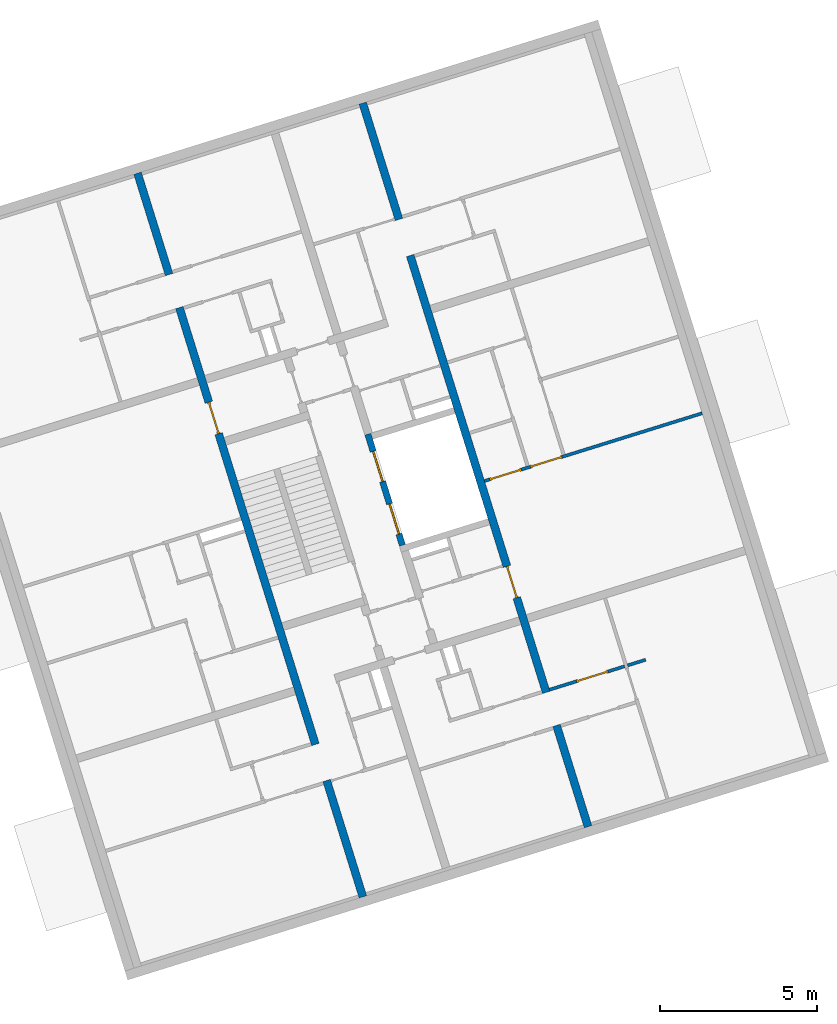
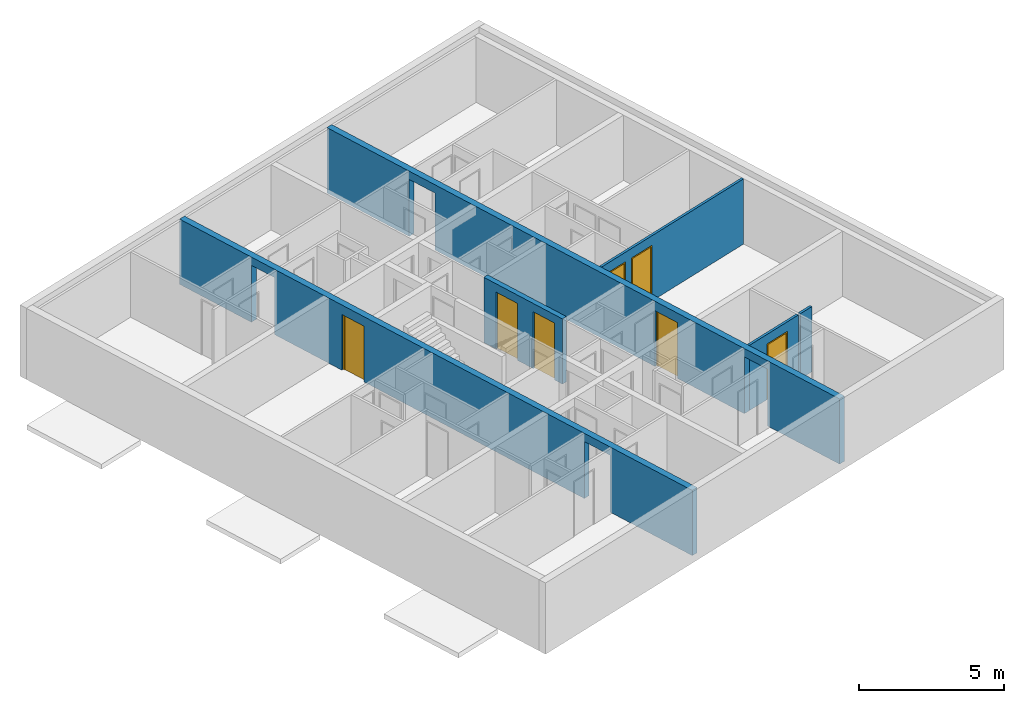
# One storey, part 8 of 9: 7 doors, 5 walls, 12 openings.
"""IFC4 building model written with IfcOpenShell, lengths in metres."""

from ifc_helpers import new_model, entity, si_unit, converted_unit, direction, frame, origin, place, context, subcontext, project, spatial, indexed_curve, outline, extrude, polygons, source, transform, mapped, material, constituent, constituent_set, type_object, type_shapes, element, fill, save


model = new_model("IFC4")

# Units and contexts
model_context = context("Model", 3, precision=1e-05, world=origin(), true_north=direction((6.12323399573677e-17, 1.0)))
body_context = subcontext(model_context, "Body", "Model", "MODEL_VIEW")
ifc_project = project(units=[si_unit("LENGTHUNIT", "METRE"), si_unit("AREAUNIT", "SQUARE_METRE"), converted_unit("PLANEANGLEUNIT", "DEGREE", entity("IfcPlaneAngleMeasure", 0.0174532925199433), si_unit("PLANEANGLEUNIT", "RADIAN"), dimensions=[0, 0, 0, 0, 0, 0, 0]), si_unit("VOLUMEUNIT", "CUBIC_METRE")], contexts=[model_context])

# Site, building, storey
site_placement = place(None, frame((13.1347999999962, 11.9886000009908, 0.0), z_axis=(0.0, 0.0, 1.0), x_axis=(0.954770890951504, 0.297342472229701, 0.0)))
site = spatial("IfcSite", under=ifc_project, at=site_placement, Name="Schiehaven", CompositionType="ELEMENT")
building_placement = place(site_placement, origin())
building = spatial("IfcBuilding", under=site, at=building_placement, Name="VORM huis", CompositionType="ELEMENT")
storey_placement = place(building_placement, frame((0.0, 0.0, 15.9)))
storey = spatial("IfcBuildingStorey", under=building, at=storey_placement, Name="05 vijfde verdieping", CompositionType="ELEMENT", Elevation=15.9)

# Wall, openings, door
ifc_material_1 = material(Name="beton_gewapend_ihw", Category="Miscellaneous")
wall_type_1 = type_object("IfcWallType", Name="Basic Wall:28_WA_skelet_wand 250mm_gen", PredefinedType="STANDARD")
wall_1_placement = place(storey_placement, frame((72.5, 5.0, 0.0), z_axis=(0.0, 0.0, 1.0), x_axis=(0.0, 1.0, 0.0)))
wall_1 = element("IfcWall", 1, at=wall_1_placement, inside=storey, type_object=wall_type_1, material=ifc_material_1, Name="Constructieve wand", ObjectType="Wand", PredefinedType="NOTDEFINED", context=body_context, shape_type="Tessellation", body=[
    polygons([(8.67499999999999, -0.125000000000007, 2.34999999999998), (8.67499999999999, -0.125000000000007, -2.16573425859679e-15), (19.0250000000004, -0.125000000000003, -2.16573425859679e-15), (19.0250000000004, -0.125000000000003, 2.4), (20.2250000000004, -0.125000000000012, 2.4), (20.2250000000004, -0.125000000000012, -2.16573425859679e-15), (24.1, -0.125000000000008, -2.16573425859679e-15), (24.1, -0.125000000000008, 2.75), (0.0, -0.125000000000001, 2.75), (1.08286712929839e-15, -0.125000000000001, -2.16573425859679e-15), (3.37500000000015, -0.125000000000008, -2.16573425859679e-15), (3.37500000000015, -0.125000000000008, 2.4), (4.47500000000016, -0.124999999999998, 2.4), (4.47500000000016, -0.124999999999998, -2.16573425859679e-15), (7.62499999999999, -0.125000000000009, -2.16573425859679e-15), (7.62499999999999, -0.125000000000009, 2.34999999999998), (19.0250000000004, 0.124999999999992, -2.16573425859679e-15), (8.675, 0.124999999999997, -2.16573425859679e-15), (8.675, 0.124999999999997, 2.34999999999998), (7.62499999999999, 0.125000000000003, 2.34999999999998), (7.62499999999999, 0.125000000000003, -2.16573425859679e-15), (7.025, 0.124999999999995, -2.16573425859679e-15), (6.775, 0.12499999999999, -2.16573425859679e-15), (4.47500000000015, 0.124999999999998, -2.16573425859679e-15), (4.47500000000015, 0.124999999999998, 2.4), (3.37500000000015, 0.124999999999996, 2.4), (3.37500000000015, 0.124999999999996, -2.16573425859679e-15), (2.16573425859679e-15, 0.124999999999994, -2.16573425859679e-15), (2.16573425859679e-15, 0.124999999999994, 2.75), (6.775, 0.12499999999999, 2.75), (7.025, 0.124999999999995, 2.75), (24.1, 0.124999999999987, 2.75), (24.1, 0.124999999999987, -2.16573425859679e-15), (20.2250000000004, 0.124999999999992, -2.16573425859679e-15), (20.2250000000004, 0.124999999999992, 2.4), (19.0250000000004, 0.124999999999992, 2.4)], [[[1, 2, 3, 4, 5, 6, 7, 8, 9, 10, 11, 12, 13, 14, 15, 16]], [[17, 18, 19, 20, 21, 22, 23, 24, 25, 26, 27, 28, 29, 30, 31, 32, 33, 34, 35, 36]], [[10, 28, 27, 11]], [[8, 7, 33, 32]], [[9, 8, 32, 31, 30, 29]], [[10, 9, 29, 28]], [[12, 26, 25, 13]], [[26, 12, 11, 27]], [[13, 25, 24, 14]], [[4, 36, 35, 5]], [[36, 4, 3, 17]], [[5, 35, 34, 6]], [[21, 20, 16, 15]], [[19, 18, 2, 1]], [[20, 19, 1, 16]], [[15, 14, 24, 23, 22, 21]], [[3, 2, 18, 17]], [[33, 7, 6, 34]]], closed=True),
])
opening_1_placement = place(wall_1_placement, origin())
element("IfcOpeningElement", 2, at=opening_1_placement, cuts=wall_1, Name="Constructieve wand", PredefinedType="OPENING", context=body_context, shape_type="SweptSolid", body=[
    extrude(outline(indexed_curve([(-1.2, -0.550000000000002), (1.2, -0.550000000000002), (1.2, 0.550000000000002), (-1.2, 0.550000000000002), (-1.2, -0.550000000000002)], self_intersect=False)), frame((3.92500000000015, -0.124999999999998, 1.2), z_axis=(0.0, 1.0, 0.0), x_axis=(0.0, 0.0, -1.0)), (0.0, 0.0, 1.0), 0.249999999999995),
])
opening_2_placement = place(wall_1_placement, origin())
element("IfcOpeningElement", 3, at=opening_2_placement, cuts=wall_1, Name="Constructieve wand", PredefinedType="OPENING", context=body_context, shape_type="SweptSolid", body=[
    extrude(outline(indexed_curve([(-1.2, -0.599999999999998), (1.2, -0.599999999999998), (1.2, 0.599999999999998), (-1.2, 0.599999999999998), (-1.2, -0.599999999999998)], self_intersect=False)), frame((19.6250000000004, -0.125000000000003, 1.2), z_axis=(0.0, 1.0, 0.0), x_axis=(0.0, 0.0, -1.0)), (0.0, 0.0, 1.0), 0.249999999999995),
])
opening_3_placement = place(wall_1_placement, frame((7.62499999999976, -0.124999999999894, 0.0)))
opening_3 = element("IfcOpeningElement", 4, at=opening_3_placement, cuts=wall_1, Name="Binnendeur", PredefinedType="OPENING", context=body_context, shape_type="SweptSolid", body=[
    extrude(outline(indexed_curve([(2.34999999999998, 1.08286712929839e-15), (2.34999999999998, 1.05), (0.0, 1.05), (0.0, 1.08286712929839e-15), (2.34999999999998, 1.08286712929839e-15)], self_intersect=False)), frame((0.0, 0.0, 0.0), z_axis=(0.0, 1.0, 0.0), x_axis=(0.0, 0.0, 1.0)), (0.0, 0.0, 1.0), 0.25),
])
ifc_material_2 = material(Name="PD_a_binnenwandopeningen", Category="Miscellaneous")
ifc_constituent_1 = constituent(ifc_material_2, Name="PD_a_binnenwandopeningen", Category="Miscellaneous")
ifc_material_3 = material(Name="metaal_aluminium_ntb", Category="Miscellaneous")
ifc_constituent_2 = constituent(ifc_material_3, Name="metaal_aluminium_ntb", Category="Miscellaneous")
ifc_constituent_set_1 = constituent_set(constituents=[ifc_constituent_1, ifc_constituent_2])
ifc_constituent_3 = constituent(ifc_material_2, Name="PD_a_binnenwandopeningen", Category="Miscellaneous")
ifc_constituent_4 = constituent(ifc_material_3, Name="Panel", Category="Miscellaneous")
ifc_constituent_set_2 = constituent_set(constituents=[ifc_constituent_3, ifc_constituent_4])
door_type_1 = type_object("IfcDoorType", Name="32_DO_binnendeur enkel:binnendeur", OperationType="REVOLVING", PredefinedType="DOOR", material=ifc_constituent_set_2)
shared_shape_1 = source(origin(), body_context, "Body", "SweptSolid", [
    extrude(outline(indexed_curve([(0.475, -1.16249999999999), (0.525000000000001, -1.16249999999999), (0.525000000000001, 1.18749999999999), (-0.525000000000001, 1.18749999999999), (-0.525000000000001, -1.16249999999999), (-0.475, -1.16249999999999), (-0.475, 1.13749999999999), (0.475, 1.13749999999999), (0.475, -1.16249999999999)], self_intersect=False)), frame((0.525000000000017, 0.174999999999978, 1.16249999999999), z_axis=(0.0, -1.0, 0.0), x_axis=(1.0, 0.0, 0.0)), (0.0, 0.0, 1.0), 0.1),
    extrude(outline(indexed_curve([(-0.475, -0.025), (0.475, -0.025), (0.475, 0.025), (-0.475, 0.025), (-0.475, -0.025)], self_intersect=False)), frame((0.525000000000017, 0.12499999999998, 0.0)), (0.0, 0.0, 1.0), 2.29999999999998),
])
type_shapes(door_type_1, [shared_shape_1])
door_1_placement = place(opening_3_placement, origin())
door_1 = element("IfcDoor", 5, at=door_1_placement, inside=storey, type_object=door_type_1, material=ifc_constituent_set_1, Name="Binnendeur", ObjectType="Deur", OperationType="REVOLVING", OverallHeight=2.34999999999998, OverallWidth=1.05, PredefinedType="DOOR", context=body_context, shape_type="MappedRepresentation", body=[
    mapped(shared_shape_1, transform((0.0, 0.0, 0.0), scale=1.0)),
])
fill(opening_3, door_1)

wall_2_placement = place(storey_placement, frame((65.0, 29.0999999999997, 0.0), z_axis=(0.0, 0.0, 1.0), x_axis=(0.0, -1.0, 0.0)))
wall_2 = element("IfcWall", 6, at=wall_2_placement, inside=storey, type_object=wall_type_1, material=ifc_material_1, Name="Constructieve wand", ObjectType="Wand", PredefinedType="NOTDEFINED", context=body_context, shape_type="Tessellation", body=[
    polygons([(8.67499999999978, -0.125000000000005, 2.34999999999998), (8.67499999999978, -0.125000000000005, -2.16573425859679e-15), (19.0249999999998, -0.125000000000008, -2.16573425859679e-15), (19.0249999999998, -0.125000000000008, 2.4), (20.2249999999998, -0.125000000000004, 2.4), (20.2249999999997, -0.125000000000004, -2.16573425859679e-15), (24.1, -0.125000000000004, -2.16573425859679e-15), (24.1, -0.125000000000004, 2.75), (4.33146851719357e-15, -0.124999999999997, 2.75), (4.33146851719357e-15, -0.124999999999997, -2.16573425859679e-15), (3.37499999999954, -0.125000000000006, -2.16573425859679e-15), (3.37499999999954, -0.125000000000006, 2.4), (4.47499999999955, -0.125000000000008, 2.4), (4.47499999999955, -0.125000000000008, -2.16573425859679e-15), (7.62499999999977, -0.124999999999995, -2.16573425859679e-15), (7.62499999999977, -0.124999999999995, 2.34999999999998), (19.0249999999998, 0.124999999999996, -2.16573425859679e-15), (8.67499999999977, 0.124999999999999, -2.16573425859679e-15), (8.67499999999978, 0.124999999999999, 2.34999999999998), (7.62499999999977, 0.125, 2.34999999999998), (7.62499999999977, 0.125, -2.16573425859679e-15), (7.02500000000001, 0.124999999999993, -2.16573425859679e-15), (6.77500000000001, 0.124999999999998, -2.16573425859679e-15), (4.47499999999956, 0.124999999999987, -2.16573425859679e-15), (4.47499999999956, 0.124999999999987, 2.4), (3.37499999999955, 0.124999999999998, 2.4), (3.37499999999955, 0.124999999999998, -2.16573425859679e-15), (0.0, 0.124999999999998, -2.16573425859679e-15), (0.0, 0.124999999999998, 2.75), (6.77500000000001, 0.124999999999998, 2.75), (7.02500000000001, 0.124999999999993, 2.75), (24.1, 0.125, 2.75), (24.1, 0.125, -2.16573425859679e-15), (20.2249999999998, 0.125, -2.16573425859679e-15), (20.2249999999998, 0.125, 2.4), (19.0249999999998, 0.124999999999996, 2.4)], [[[1, 2, 3, 4, 5, 6, 7, 8, 9, 10, 11, 12, 13, 14, 15, 16]], [[17, 18, 19, 20, 21, 22, 23, 24, 25, 26, 27, 28, 29, 30, 31, 32, 33, 34, 35, 36]], [[10, 28, 27, 11]], [[8, 7, 33, 32]], [[9, 8, 32, 31, 30, 29]], [[10, 9, 29, 28]], [[12, 26, 25, 13]], [[26, 12, 11, 27]], [[13, 25, 24, 14]], [[4, 36, 35, 5]], [[36, 4, 3, 17]], [[5, 35, 34, 6]], [[21, 20, 16, 15]], [[19, 18, 2, 1]], [[20, 19, 1, 16]], [[15, 14, 24, 23, 22, 21]], [[3, 2, 18, 17]], [[33, 7, 6, 34]]], closed=True),
])
opening_4_placement = place(wall_2_placement, origin())
element("IfcOpeningElement", 7, at=opening_4_placement, cuts=wall_2, Name="Constructieve wand", PredefinedType="OPENING", context=body_context, shape_type="SweptSolid", body=[
    extrude(outline(indexed_curve([(-1.2, -0.550000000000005), (1.2, -0.550000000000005), (1.2, 0.550000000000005), (-1.2, 0.550000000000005), (-1.2, -0.550000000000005)], self_intersect=False)), frame((3.92499999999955, -0.125000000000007, 1.2), z_axis=(0.0, 1.0, 0.0), x_axis=(0.0, 0.0, -1.0)), (0.0, 0.0, 1.0), 0.249999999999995),
])
opening_5_placement = place(wall_2_placement, origin())
element("IfcOpeningElement", 8, at=opening_5_placement, cuts=wall_2, Name="Constructieve wand", PredefinedType="OPENING", context=body_context, shape_type="SweptSolid", body=[
    extrude(outline(indexed_curve([(-1.2, -0.599999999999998), (1.2, -0.599999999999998), (1.2, 0.599999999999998), (-1.2, 0.599999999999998), (-1.2, -0.599999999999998)], self_intersect=False)), frame((19.6249999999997, -0.124999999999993, 1.2), z_axis=(0.0, 1.0, 0.0), x_axis=(0.0, 0.0, -1.0)), (0.0, 0.0, 1.0), 0.249999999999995),
])
opening_6_placement = place(wall_2_placement, frame((7.62499999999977, -0.125000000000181, 0.0)))
opening_6 = element("IfcOpeningElement", 9, at=opening_6_placement, cuts=wall_2, Name="Binnendeur", PredefinedType="OPENING", context=body_context, shape_type="SweptSolid", body=[
    extrude(outline(indexed_curve([(2.34999999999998, 2.56961408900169e-29), (2.34999999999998, 1.05), (0.0, 1.05), (0.0, 2.56961408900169e-29), (2.34999999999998, 2.56961408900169e-29)], self_intersect=False)), frame((0.0, 0.0, 0.0), z_axis=(0.0, 1.0, 0.0), x_axis=(0.0, 0.0, 1.0)), (0.0, 0.0, 1.0), 0.25),
])
ifc_constituent_5 = constituent(ifc_material_2, Name="PD_a_binnenwandopeningen", Category="Miscellaneous")
ifc_constituent_6 = constituent(ifc_material_3, Name="metaal_aluminium_ntb", Category="Miscellaneous")
ifc_constituent_set_3 = constituent_set(constituents=[ifc_constituent_5, ifc_constituent_6])
door_2_placement = place(opening_6_placement, origin())
door_2 = element("IfcDoor", 10, at=door_2_placement, inside=storey, type_object=door_type_1, material=ifc_constituent_set_3, Name="Binnendeur", ObjectType="Deur", OperationType="REVOLVING", OverallHeight=2.34999999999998, OverallWidth=1.05, PredefinedType="DOOR", context=body_context, shape_type="MappedRepresentation", body=[
    mapped(shared_shape_1, transform((0.0, 0.0, 0.0), scale=1.0)),
])
fill(opening_6, door_2)

# Wall, openings, doors
ifc_material_4 = material(Name="beton_gewapend_prefab-element", Category="Miscellaneous")
wall_type_2 = type_object("IfcWallType", Name="Basic Wall:28_WA_skelet_wand 200mm_gen", PredefinedType="STANDARD")
wall_3_placement = place(storey_placement, frame((69.5249999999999, 15.2999999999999, 0.0), z_axis=(0.0, 0.0, 1.0), x_axis=(0.0, 1.0, 0.0)))
wall_3 = element("IfcWall", 11, at=wall_3_placement, inside=storey, type_object=wall_type_2, material=ifc_material_4, Name="Constructieve wand", ObjectType="Wand", PredefinedType="NOTDEFINED", context=body_context, shape_type="Tessellation", body=[
    polygons([(3.70000000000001, -0.0999999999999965, 2.75), (3.50000000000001, -0.0999999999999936, 2.75), (2.16573425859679e-15, -0.0999999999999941, 2.75), (2.16573425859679e-15, -0.0999999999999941, -2.16573425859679e-15), (0.3749999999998, -0.0999999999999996, -2.16573425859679e-15), (0.3749999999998, -0.0999999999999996, 2.39999999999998), (1.3749999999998, -0.099999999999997, 2.39999999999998), (1.3749999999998, -0.099999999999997, -2.16573425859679e-15), (2.1249999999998, -0.100000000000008, -2.16573425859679e-15), (2.1249999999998, -0.0999999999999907, 2.39999999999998), (3.1249999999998, -0.0999999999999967, 2.39999999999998), (3.1249999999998, -0.0999999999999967, -2.16573425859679e-15), (3.50000000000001, -0.0999999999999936, -2.16573425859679e-15), (3.70000000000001, -0.0999999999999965, -2.16573425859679e-15), (4.33146851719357e-15, 0.100000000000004, 2.75), (3.70000000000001, 0.0999999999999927, 2.75), (3.70000000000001, 0.0999999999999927, -2.16573425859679e-15), (3.1249999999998, 0.100000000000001, -2.16573425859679e-15), (3.1249999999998, 0.100000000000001, 2.39999999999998), (2.1249999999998, 0.0999999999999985, 2.39999999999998), (2.1249999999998, 0.0999999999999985, -2.16573425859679e-15), (1.3749999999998, 0.10000000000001, -2.16573425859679e-15), (1.3749999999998, 0.10000000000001, 2.39999999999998), (0.374999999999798, 0.0999999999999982, 2.39999999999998), (0.374999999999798, 0.0999999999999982, -2.16573425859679e-15), (4.33146851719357e-15, 0.100000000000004, -2.16573425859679e-15)], [[[1, 2, 3, 4, 5, 6, 7, 8, 9, 10, 11, 12, 13, 14]], [[15, 16, 17, 18, 19, 20, 21, 22, 23, 24, 25, 26]], [[5, 4, 26, 25]], [[3, 2, 1, 16, 15]], [[7, 23, 22, 8]], [[24, 6, 5, 25]], [[23, 7, 6, 24]], [[11, 19, 18, 12]], [[20, 10, 9, 21]], [[19, 11, 10, 20]], [[1, 14, 17, 16]], [[4, 3, 15, 26]], [[8, 22, 21, 9]], [[17, 14, 13, 12, 18]]], closed=True),
])
opening_7_placement = place(wall_3_placement, frame((-15.2999999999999, 69.5249999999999, 0.0), z_axis=(0.0, 0.0, 1.0), x_axis=(0.0, -1.0, 0.0)))
opening_7 = element("IfcOpeningElement", 12, at=opening_7_placement, cuts=wall_3, Name="Brandweerlift", PredefinedType="OPENING", context=body_context, shape_type="SweptSolid", body=[
    extrude(outline(indexed_curve([(-1.19999999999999, -0.500000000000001), (1.19999999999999, -0.500000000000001), (1.19999999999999, 0.499999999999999), (-1.19999999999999, 0.499999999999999), (-1.19999999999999, -0.500000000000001)], self_intersect=False)), frame((70.0126380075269, 16.1749999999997, 1.19999999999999), z_axis=(-1.0, 0.0, 0.0), x_axis=(0.0, 0.0, -1.0)), (0.0, 0.0, 1.0), 0.756310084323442),
])
opening_8_placement = place(wall_3_placement, frame((-15.2999999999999, 69.5249999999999, 0.0), z_axis=(0.0, 0.0, 1.0), x_axis=(0.0, -1.0, 0.0)))
opening_8 = element("IfcOpeningElement", 13, at=opening_8_placement, cuts=wall_3, Name="Brandweerlift", PredefinedType="OPENING", context=body_context, shape_type="SweptSolid", body=[
    extrude(outline(indexed_curve([(-1.19999999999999, -0.500000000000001), (1.19999999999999, -0.500000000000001), (1.19999999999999, 0.499999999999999), (-1.19999999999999, 0.499999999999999), (-1.19999999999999, -0.500000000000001)], self_intersect=False)), frame((70.0126380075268, 17.9249999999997, 1.19999999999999), z_axis=(-1.0, 0.0, 0.0), x_axis=(0.0, 0.0, -1.0)), (0.0, 0.0, 1.0), 0.756310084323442),
])
door_type_2 = type_object("IfcDoorType", Name="66_WI_liftdeur:brandweerlift - tweezijdig toegankelijk", OperationType="NOTDEFINED", PredefinedType="DOOR", material=ifc_material_3)
shared_shape_2 = source(origin(), body_context, "Body", "SweptSolid", [
    extrude(outline(indexed_curve([(-0.25, -0.0250000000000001), (0.25, -0.0249999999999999), (0.25, 0.0250000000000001), (-0.25, 0.0249999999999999), (-0.25, -0.0250000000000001)], self_intersect=False)), frame((0.750000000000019, -0.28763800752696, 0.0)), (0.0, 0.0, 1.0), 2.39999999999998),
    extrude(outline(indexed_curve([(-0.25, -0.0250000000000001), (0.25, -0.0249999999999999), (0.25, 0.0250000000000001), (-0.25, 0.0249999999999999), (-0.25, -0.0250000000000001)], self_intersect=False)), frame((0.250000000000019, -0.287638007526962, 0.0)), (0.0, 0.0, 1.0), 2.39999999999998),
])
type_shapes(door_type_2, [shared_shape_2])
door_3_placement = place(opening_7_placement, frame((69.2373619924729, 15.6749999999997, 0.0), z_axis=(0.0, 0.0, 1.0), x_axis=(0.0, 1.0, 0.0)))
door_3 = element("IfcDoor", 14, at=door_3_placement, inside=storey, type_object=door_type_2, material=ifc_material_3, Name="Brandweerlift", ObjectType="Transport", OperationType="NOTDEFINED", OverallHeight=2.39999999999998, OverallWidth=1.0, PredefinedType="DOOR", context=body_context, shape_type="MappedRepresentation", body=[
    mapped(shared_shape_2, transform((0.0, 0.0, 0.0), scale=1.0)),
])
fill(opening_7, door_3)
door_4_placement = place(opening_8_placement, frame((69.2373619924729, 17.4249999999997, 0.0), z_axis=(0.0, 0.0, 1.0), x_axis=(0.0, 1.0, 0.0)))
door_4 = element("IfcDoor", 15, at=door_4_placement, inside=storey, type_object=door_type_2, material=ifc_material_3, Name="Brandweerlift", ObjectType="Transport", OperationType="NOTDEFINED", OverallHeight=2.39999999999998, OverallWidth=1.0, PredefinedType="DOOR", context=body_context, shape_type="MappedRepresentation", body=[
    mapped(shared_shape_2, transform((0.0, 0.0, 0.0), scale=1.0)),
])
fill(opening_8, door_4)

# Wall, openings, door
ifc_material_5 = material(Name="ntb_ntb_ntb", Category="Miscellaneous")
wall_type_3 = type_object("IfcWallType", Name="Basic Wall:22_WA_afbouw_binnenwand 100mm_gen", PredefinedType="STANDARD")
wall_4_placement = place(storey_placement, frame((72.625, 9.52499999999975, 0.0)))
wall_4 = element("IfcWall", 16, at=wall_4_placement, inside=storey, type_object=wall_type_3, material=ifc_material_5, Name="Binnenwand", ObjectType="Wand", PredefinedType="NOTDEFINED", context=body_context, shape_type="Tessellation", body=[
    polygons([(-5.76685161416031e-15, -0.0500000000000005, 2.75), (-5.76685161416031e-15, -0.0500000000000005, 0.0), (0.899999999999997, -0.0500000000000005, 0.0), (0.899999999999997, -0.0500000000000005, 2.34999999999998), (1.95, -0.0500000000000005, 2.34999999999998), (1.95, -0.0500000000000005, 0.0), (2.50000000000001, -0.0500000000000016, 0.0), (2.50000000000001, -0.0500000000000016, 2.75), (-4.09055660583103e-15, 0.0499999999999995, 0.0), (0.899999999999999, 0.0500000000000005, 0.0), (-4.09055660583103e-15, 0.0499999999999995, 2.75), (1.95, 0.0500000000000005, 2.34999999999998), (1.95, 0.0500000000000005, 0.0), (0.899999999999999, 0.0500000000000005, 2.34999999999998), (2.50000000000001, 0.0499999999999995, 0.0), (2.50000000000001, 0.0499999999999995, 2.75)], [[[1, 2, 3, 4, 5, 6, 7, 8]], [[2, 9, 10, 3]], [[2, 1, 11, 9]], [[6, 5, 12, 13]], [[4, 3, 10, 14]], [[5, 4, 14, 12]], [[8, 7, 15, 16]], [[11, 1, 8, 16]], [[6, 13, 15, 7]], [[9, 11, 16, 15, 13, 12, 14, 10]]], closed=True),
    polygons([(3.20000000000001, 0.0499999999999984, 2.75), (3.20000000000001, 0.0499999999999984, 0.0), (2.60000000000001, 0.0499999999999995, 0.0), (2.60000000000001, 0.0499999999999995, 2.75), (3.20000000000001, -0.0500000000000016, 2.75), (3.20000000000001, -0.0500000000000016, 0.0), (2.60000000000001, -0.0500000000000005, 2.75), (2.60000000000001, -0.0500000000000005, 0.0)], [[[1, 2, 3, 4]], [[5, 6, 2, 1]], [[5, 1, 4, 7]], [[8, 7, 4, 3]], [[2, 6, 8, 3]], [[6, 5, 7, 8]]], closed=True),
])
opening_9_placement = place(storey_placement, frame((72.625, 9.52499999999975, 0.0)))
element("IfcOpeningElement", 17, at=opening_9_placement, cuts=wall_4, Name="Binnenwand:1", PredefinedType="OPENING", context=body_context, shape_type="SweptSolid", body=[
    extrude(outline(indexed_curve([(-1.375, -0.0500000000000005), (1.375, -0.0500000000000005), (1.375, 0.0500000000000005), (-1.375, 0.0499999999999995), (-1.375, -0.0500000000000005)], self_intersect=False)), frame((2.50000000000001, 0.0, 1.375), z_axis=(1.0, 0.0, 0.0), x_axis=(0.0, 0.0, -1.0)), (0.0, 0.0, 1.0), 0.100000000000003),
])
opening_10_placement = place(wall_4_placement, frame((1.95, 0.0500000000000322, 0.0)))
opening_10 = element("IfcOpeningElement", 18, at=opening_10_placement, cuts=wall_4, Name="Binnendeur", PredefinedType="OPENING", context=body_context, shape_type="SweptSolid", body=[
    extrude(outline(indexed_curve([(2.34999999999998, 4.67982478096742e-30), (2.34999999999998, 1.05), (0.0, 1.05), (0.0, 4.67982478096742e-30), (2.34999999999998, 4.67982478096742e-30)], self_intersect=False)), frame((0.0, 0.0, 0.0), z_axis=(0.0, -1.0, 0.0), x_axis=(0.0, 0.0, 1.0)), (0.0, 0.0, 1.0), 0.1),
])
ifc_constituent_7 = constituent(ifc_material_2, Name="PD_a_binnenwandopeningen", Category="Miscellaneous")
ifc_constituent_8 = constituent(ifc_material_3, Name="metaal_aluminium_ntb", Category="Miscellaneous")
ifc_constituent_set_4 = constituent_set(constituents=[ifc_constituent_7, ifc_constituent_8])
ifc_constituent_9 = constituent(ifc_material_2, Name="PD_a_binnenwandopeningen", Category="Miscellaneous")
ifc_constituent_10 = constituent(ifc_material_3, Name="Panel", Category="Miscellaneous")
ifc_constituent_set_5 = constituent_set(constituents=[ifc_constituent_9, ifc_constituent_10])
door_type_3 = type_object("IfcDoorType", Name="32_DO_binnendeur enkel:binnendeur", OperationType="REVOLVING", PredefinedType="DOOR", material=ifc_constituent_set_5)
shared_shape_3 = source(origin(), body_context, "Body", "SweptSolid", [
    extrude(outline(indexed_curve([(0.475, -1.16249999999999), (0.525, -1.16249999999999), (0.525, 1.18749999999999), (-0.525, 1.18749999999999), (-0.525, -1.16249999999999), (-0.475, -1.16249999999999), (-0.475, 1.13749999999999), (0.475, 1.13749999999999), (0.475, -1.16249999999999)], self_intersect=False)), frame((0.525000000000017, 0.100000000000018, 1.16249999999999), z_axis=(0.0, -1.0, 0.0), x_axis=(1.0, 0.0, 0.0)), (0.0, 0.0, 1.0), 0.1),
    extrude(outline(indexed_curve([(-0.475, -0.025), (0.475, -0.025), (0.475, 0.025), (-0.475, 0.025), (-0.475, -0.025)], self_intersect=False)), frame((0.525000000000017, 0.0499999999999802, 0.0)), (0.0, 0.0, 1.0), 2.29999999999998),
])
type_shapes(door_type_3, [shared_shape_3])
door_5_placement = place(opening_10_placement, frame((0.0, 0.0, 0.0), z_axis=(0.0, 0.0, 1.0), x_axis=(-1.0, 0.0, 0.0)))
door_5 = element("IfcDoor", 19, at=door_5_placement, inside=storey, type_object=door_type_3, material=ifc_constituent_set_4, Name="Binnendeur", ObjectType="Deur", OperationType="REVOLVING", OverallHeight=2.34999999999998, OverallWidth=1.05, PredefinedType="DOOR", context=body_context, shape_type="MappedRepresentation", body=[
    mapped(shared_shape_3, transform((0.0, 0.0, 0.0), scale=1.0)),
])
fill(opening_10, door_5)

# Wall, openings, doors
wall_5_placement = place(storey_placement, frame((72.6228357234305, 16.4749999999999, 0.0)))
wall_5 = element("IfcWall", 20, at=wall_5_placement, inside=storey, type_object=wall_type_3, material=ifc_material_5, Name="Binnenwand", ObjectType="Wand", PredefinedType="NOTDEFINED", context=body_context, shape_type="Tessellation", body=[
    polygons([(-3.00038679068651e-15, -0.0499999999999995, 0.0), (0.176082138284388, -0.0499999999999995, 0.0), (0.176082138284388, -0.0499999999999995, 2.34999999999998), (1.22608213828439, -0.0499999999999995, 2.34999999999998), (1.22608213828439, -0.0499999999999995, 0.0), (1.52716427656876, -0.0499999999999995, 0.0), (1.52716427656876, -0.0499999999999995, 2.34999999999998), (2.57716427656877, -0.0499999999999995, 2.34999999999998), (2.57716427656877, -0.0499999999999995, 0.0), (7.25216427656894, -0.0499999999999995, 0.0), (7.25216427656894, -0.0499999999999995, 2.75), (-3.00038679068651e-15, -0.0499999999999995, 2.75), (0.176082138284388, 0.0499999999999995, 2.34999999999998), (0.176082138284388, 0.0499999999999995, 0.0), (-2.70219966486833e-15, 0.0499999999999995, 0.0), (-2.70219966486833e-15, 0.0499999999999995, 2.75), (1.40216427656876, 0.0499999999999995, 2.75), (1.50216427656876, 0.0499999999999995, 2.75), (2.60216427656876, 0.0499999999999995, 2.75), (2.70216427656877, 0.0499999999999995, 2.75), (7.25216427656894, 0.0499999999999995, 2.75), (7.25216427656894, 0.0499999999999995, 0.0), (2.70216427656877, 0.0499999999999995, 0.0), (2.60216427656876, 0.0499999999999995, 0.0), (2.57716427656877, 0.0499999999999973, 0.0), (2.57716427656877, 0.0499999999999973, 2.34999999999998), (1.52716427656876, 0.0499999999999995, 2.34999999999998), (1.52716427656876, 0.0499999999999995, 0.0), (1.50216427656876, 0.0499999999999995, 0.0), (1.40216427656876, 0.0499999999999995, 0.0), (1.22608213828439, 0.0499999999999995, 0.0), (1.22608213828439, 0.0499999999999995, 2.34999999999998)], [[[1, 2, 3, 4, 5, 6, 7, 8, 9, 10, 11, 12]], [[13, 14, 15, 16, 17, 18, 19, 20, 21, 22, 23, 24, 25, 26, 27, 28, 29, 30, 31, 32]], [[15, 14, 2, 1]], [[11, 10, 22, 21]], [[12, 11, 21, 20, 19, 18, 17, 16]], [[1, 12, 16, 15]], [[9, 8, 26, 25]], [[7, 6, 28, 27]], [[8, 7, 27, 26]], [[5, 4, 32, 31]], [[3, 2, 14, 13]], [[4, 3, 13, 32]], [[31, 30, 29, 28, 6, 5]], [[25, 24, 23, 22, 10, 9]]], closed=True),
])
opening_11_placement = place(wall_5_placement, frame((2.57716427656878, 0.0500000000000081, 0.0)))
opening_11 = element("IfcOpeningElement", 21, at=opening_11_placement, cuts=wall_5, Name="Binnendeur", PredefinedType="OPENING", context=body_context, shape_type="SweptSolid", body=[
    extrude(outline(indexed_curve([(2.34999999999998, 0.0), (2.34999999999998, 1.05), (0.0, 1.05), (0.0, 0.0), (2.34999999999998, 0.0)], self_intersect=False)), frame((0.0, 0.0, 0.0), z_axis=(0.0, -1.0, 0.0), x_axis=(0.0, 0.0, 1.0)), (0.0, 0.0, 1.0), 0.1),
])
opening_12_placement = place(wall_5_placement, frame((1.22608213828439, 0.0500000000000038, 0.0)))
opening_12 = element("IfcOpeningElement", 22, at=opening_12_placement, cuts=wall_5, Name="Binnendeur", PredefinedType="OPENING", context=body_context, shape_type="SweptSolid", body=[
    extrude(outline(indexed_curve([(2.34999999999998, 0.0), (2.34999999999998, 1.05), (0.0, 1.05), (0.0, 0.0), (2.34999999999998, 0.0)], self_intersect=False)), frame((0.0, 0.0, 0.0), z_axis=(0.0, -1.0, 0.0), x_axis=(0.0, 0.0, 1.0)), (0.0, 0.0, 1.0), 0.1),
])
ifc_constituent_11 = constituent(ifc_material_2, Name="PD_a_binnenwandopeningen", Category="Miscellaneous")
ifc_constituent_12 = constituent(ifc_material_3, Name="metaal_aluminium_ntb", Category="Miscellaneous")
ifc_constituent_set_6 = constituent_set(constituents=[ifc_constituent_11, ifc_constituent_12])
door_6_placement = place(opening_11_placement, frame((0.0, 0.0, 0.0), z_axis=(0.0, 0.0, 1.0), x_axis=(-1.0, 0.0, 0.0)))
door_6 = element("IfcDoor", 23, at=door_6_placement, inside=storey, type_object=door_type_3, material=ifc_constituent_set_6, Name="Binnendeur", ObjectType="Deur", OperationType="REVOLVING", OverallHeight=2.34999999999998, OverallWidth=1.05, PredefinedType="DOOR", context=body_context, shape_type="MappedRepresentation", body=[
    mapped(shared_shape_3, transform((0.0, 0.0, 0.0), scale=1.0)),
])
fill(opening_11, door_6)
ifc_constituent_13 = constituent(ifc_material_2, Name="PD_a_binnenwandopeningen", Category="Miscellaneous")
ifc_constituent_14 = constituent(ifc_material_3, Name="metaal_aluminium_ntb", Category="Miscellaneous")
ifc_constituent_set_7 = constituent_set(constituents=[ifc_constituent_13, ifc_constituent_14])
door_7_placement = place(opening_12_placement, frame((0.0, 0.0, 0.0), z_axis=(0.0, 0.0, 1.0), x_axis=(-1.0, 0.0, 0.0)))
door_7 = element("IfcDoor", 24, at=door_7_placement, inside=storey, type_object=door_type_3, material=ifc_constituent_set_7, Name="Binnendeur", ObjectType="Deur", OperationType="REVOLVING", OverallHeight=2.34999999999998, OverallWidth=1.05, PredefinedType="DOOR", context=body_context, shape_type="MappedRepresentation", body=[
    mapped(shared_shape_3, transform((0.0, 0.0, 0.0), scale=1.0)),
])
fill(opening_12, door_7)

save(model, "model.ifc")
